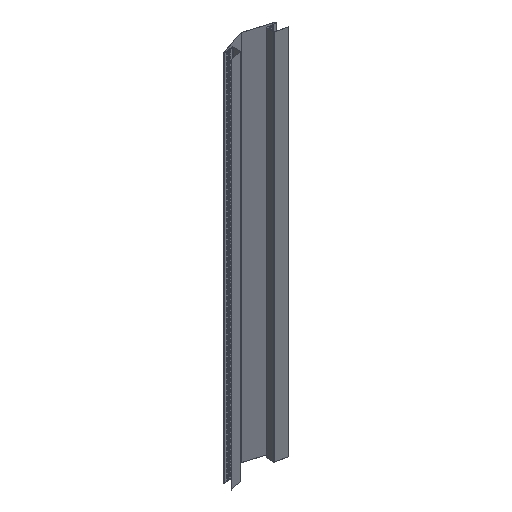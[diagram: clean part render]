
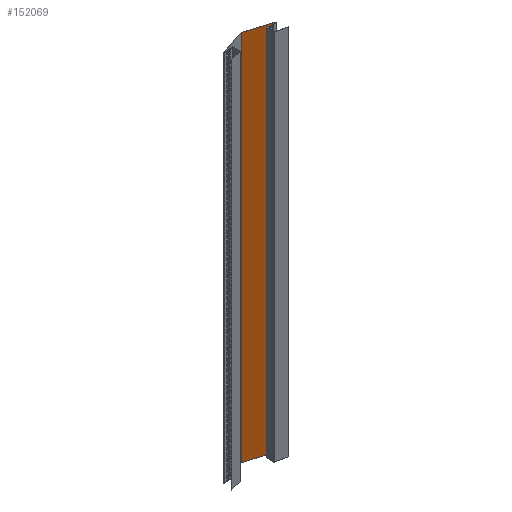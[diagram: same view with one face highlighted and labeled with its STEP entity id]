
A CAD part, isometric view. The second image highlights one B-rep face of the part: STEP entity #152069.
In plain terms, the highlighted planar face has unit normal (-0.297, -0.955, 0).
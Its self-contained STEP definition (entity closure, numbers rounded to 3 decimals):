
#3564 = DIRECTION ( 'NONE',  ( 0., 0., -1. ) ) ;
#6582 = CARTESIAN_POINT ( 'NONE',  ( 5.459, -1.718, 77.868 ) ) ;
#25390 = DIRECTION ( 'NONE',  ( -0.955, 0.297, 0. ) ) ;
#25616 = FACE_OUTER_BOUND ( 'NONE', #61132, .T. ) ;
#30804 = ORIENTED_EDGE ( 'NONE', *, *, #93070, .T. ) ;
#34529 = DIRECTION ( 'NONE',  ( -0.297, -0.955, 0. ) ) ;
#43871 = LINE ( 'NONE', #113676, #108876 ) ;
#46070 = AXIS2_PLACEMENT_3D ( 'NONE', #107792, #34529, #120072 ) ;
#46162 = VERTEX_POINT ( 'NONE', #6582 ) ;
#48958 = CARTESIAN_POINT ( 'NONE',  ( 0.003, -0.022, 77.868 ) ) ;
#50238 = LINE ( 'NONE', #86386, #147765 ) ;
#52615 = VECTOR ( 'NONE', #135796, 39.37 ) ;
#56653 = ORIENTED_EDGE ( 'NONE', *, *, #62124, .F. ) ;
#61132 = EDGE_LOOP ( 'NONE', ( #56653, #30804, #152389, #86884 ) ) ;
#62124 = EDGE_CURVE ( 'NONE', #111752, #46162, #134966, .T. ) ;
#62589 = CARTESIAN_POINT ( 'NONE',  ( 5.459, -1.718, 0.717 ) ) ;
#68542 = CARTESIAN_POINT ( 'NONE',  ( 0.003, -0.022, 77.868 ) ) ;
#72834 = VERTEX_POINT ( 'NONE', #143478 ) ;
#83211 = PLANE ( 'NONE',  #46070 ) ;
#86386 = CARTESIAN_POINT ( 'NONE',  ( 0.003, -0.022, 0.717 ) ) ;
#86884 = ORIENTED_EDGE ( 'NONE', *, *, #101311, .F. ) ;
#92315 = VERTEX_POINT ( 'NONE', #62589 ) ;
#93070 = EDGE_CURVE ( 'NONE', #111752, #72834, #43871, .T. ) ;
#101311 = EDGE_CURVE ( 'NONE', #46162, #92315, #117607, .T. ) ;
#107792 = CARTESIAN_POINT ( 'NONE',  ( 0.003, -0.022, 120. ) ) ;
#108876 = VECTOR ( 'NONE', #3564, 39.37 ) ;
#111752 = VERTEX_POINT ( 'NONE', #68542 ) ;
#113676 = CARTESIAN_POINT ( 'NONE',  ( 0.003, -0.022, 120. ) ) ;
#117607 = LINE ( 'NONE', #123564, #52615 ) ;
#120072 = DIRECTION ( 'NONE',  ( 0.955, -0.297, 0. ) ) ;
#123564 = CARTESIAN_POINT ( 'NONE',  ( 5.459, -1.718, 120. ) ) ;
#134375 = DIRECTION ( 'NONE',  ( 0.955, -0.297, 0. ) ) ;
#134966 = LINE ( 'NONE', #48958, #138850 ) ;
#135796 = DIRECTION ( 'NONE',  ( 0., 0., -1. ) ) ;
#138850 = VECTOR ( 'NONE', #134375, 39.37 ) ;
#143478 = CARTESIAN_POINT ( 'NONE',  ( 0.003, -0.022, 0.717 ) ) ;
#147765 = VECTOR ( 'NONE', #25390, 39.37 ) ;
#152069 = ADVANCED_FACE ( 'NONE', ( #25616 ), #83211, .T. ) ;
#152389 = ORIENTED_EDGE ( 'NONE', *, *, #153462, .F. ) ;
#153462 = EDGE_CURVE ( 'NONE', #92315, #72834, #50238, .T. ) ;
